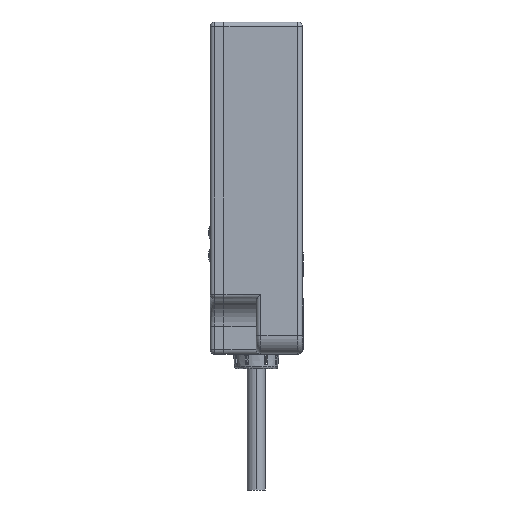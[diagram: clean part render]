
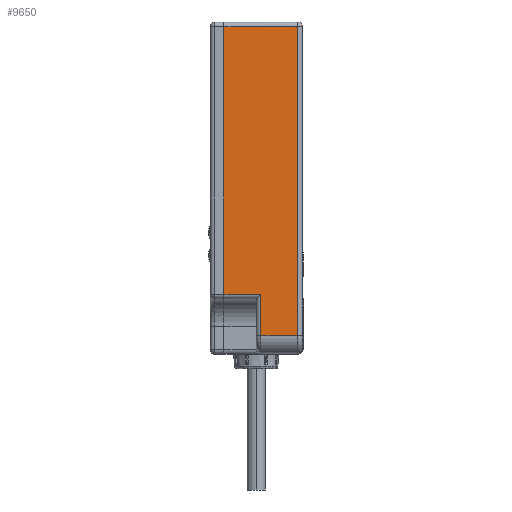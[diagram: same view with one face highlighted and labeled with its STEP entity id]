
A CAD part, left-side view. The second image highlights one B-rep face of the part: STEP entity #9650.
In plain terms, the highlighted planar face has unit normal (-1, 0, 0).
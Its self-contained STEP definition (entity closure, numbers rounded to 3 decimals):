
#111 = ORIENTED_EDGE ( 'NONE', *, *, #5913, .T. ) ;
#381 = CARTESIAN_POINT ( 'NONE',  ( -26., 0., -22.8 ) ) ;
#623 = DIRECTION ( 'NONE',  ( 0., 0., -1. ) ) ;
#1035 = ORIENTED_EDGE ( 'NONE', *, *, #12239, .F. ) ;
#1053 = EDGE_CURVE ( 'NONE', #15018, #14454, #6863, .T. ) ;
#1683 = ORIENTED_EDGE ( 'NONE', *, *, #6055, .T. ) ;
#2066 = CARTESIAN_POINT ( 'NONE',  ( -26., 9., -22.8 ) ) ;
#2243 = LINE ( 'NONE', #15301, #11621 ) ;
#3121 = LINE ( 'NONE', #12809, #13158 ) ;
#3412 = EDGE_CURVE ( 'NONE', #12139, #12867, #5653, .T. ) ;
#3619 = VECTOR ( 'NONE', #11589, 1000. ) ;
#4023 = LINE ( 'NONE', #4980, #9025 ) ;
#4207 = ORIENTED_EDGE ( 'NONE', *, *, #1053, .T. ) ;
#4980 = CARTESIAN_POINT ( 'NONE',  ( -26., 1., -22.949 ) ) ;
#5581 = FACE_OUTER_BOUND ( 'NONE', #9848, .T. ) ;
#5630 = DIRECTION ( 'NONE',  ( 0., -1., 0. ) ) ;
#5653 = LINE ( 'NONE', #14007, #3619 ) ;
#5913 = EDGE_CURVE ( 'NONE', #14454, #12139, #3121, .T. ) ;
#6055 = EDGE_CURVE ( 'NONE', #12867, #13257, #9846, .T. ) ;
#6791 = VERTEX_POINT ( 'NONE', #11795 ) ;
#6794 = EDGE_CURVE ( 'NONE', #6791, #15018, #2243, .T. ) ;
#6863 = LINE ( 'NONE', #7814, #12512 ) ;
#7295 = CARTESIAN_POINT ( 'NONE',  ( -26., 17., -13.8 ) ) ;
#7544 = DIRECTION ( 'NONE',  ( 0., 0., -1. ) ) ;
#7814 = CARTESIAN_POINT ( 'NONE',  ( -26., 17., -14.8 ) ) ;
#7999 = CARTESIAN_POINT ( 'NONE',  ( -26., 1., -22.8 ) ) ;
#9025 = VECTOR ( 'NONE', #7544, 1000. ) ;
#9650 = ADVANCED_FACE ( 'NONE', ( #5581 ), #13941, .T. ) ;
#9846 = LINE ( 'NONE', #381, #9903 ) ;
#9848 = EDGE_LOOP ( 'NONE', ( #11106, #4207, #111, #12994, #1683, #1035 ) ) ;
#9903 = VECTOR ( 'NONE', #14452, 1000. ) ;
#10350 = CARTESIAN_POINT ( 'NONE',  ( -26., 0., -14.8 ) ) ;
#11106 = ORIENTED_EDGE ( 'NONE', *, *, #6794, .T. ) ;
#11589 = DIRECTION ( 'NONE',  ( 0., 0., -1. ) ) ;
#11621 = VECTOR ( 'NONE', #15464, 1000. ) ;
#11795 = CARTESIAN_POINT ( 'NONE',  ( -26., 1., 44.2 ) ) ;
#12008 = CARTESIAN_POINT ( 'NONE',  ( -26., 9., -13.8 ) ) ;
#12139 = VERTEX_POINT ( 'NONE', #12008 ) ;
#12239 = EDGE_CURVE ( 'NONE', #6791, #13257, #4023, .T. ) ;
#12512 = VECTOR ( 'NONE', #623, 1000. ) ;
#12809 = CARTESIAN_POINT ( 'NONE',  ( -26., 0., -13.8 ) ) ;
#12867 = VERTEX_POINT ( 'NONE', #2066 ) ;
#12924 = AXIS2_PLACEMENT_3D ( 'NONE', #10350, #15026, #13859 ) ;
#12994 = ORIENTED_EDGE ( 'NONE', *, *, #3412, .T. ) ;
#13158 = VECTOR ( 'NONE', #5630, 1000. ) ;
#13257 = VERTEX_POINT ( 'NONE', #7999 ) ;
#13859 = DIRECTION ( 'NONE',  ( 0., 0., 1. ) ) ;
#13941 = PLANE ( 'NONE',  #12924 ) ;
#14007 = CARTESIAN_POINT ( 'NONE',  ( -26., 9., -14.8 ) ) ;
#14452 = DIRECTION ( 'NONE',  ( 0., -1., 0. ) ) ;
#14454 = VERTEX_POINT ( 'NONE', #7295 ) ;
#14465 = CARTESIAN_POINT ( 'NONE',  ( -26., 17., 44.2 ) ) ;
#15018 = VERTEX_POINT ( 'NONE', #14465 ) ;
#15026 = DIRECTION ( 'NONE',  ( -1., 0., 0. ) ) ;
#15301 = CARTESIAN_POINT ( 'NONE',  ( -26., 0., 44.2 ) ) ;
#15464 = DIRECTION ( 'NONE',  ( 0., 1., 0. ) ) ;
